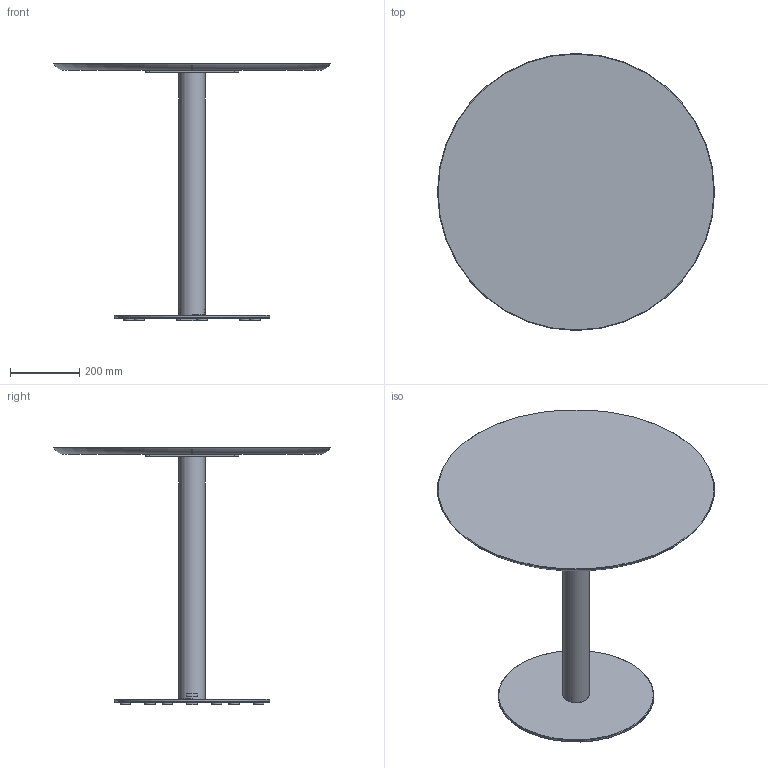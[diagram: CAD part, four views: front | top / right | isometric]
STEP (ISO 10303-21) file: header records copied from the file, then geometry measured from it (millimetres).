
FILE_DESCRIPTION( ('This file contains a STEP AP42 implementation' ,'as created by ZW3D STEP Interface translator.') ,'2;1' );
FILE_NAME( 'Henri - B_Rond - F1 - M3 - 700 x 700 x 750.stp' ,'24 912.151132', (''), ('ZWCAD Software Co.'), 'Version 1.0', 'ZW3D to STEP translator', '' );
FILE_SCHEMA(('AUTOMOTIVE_DESIGN { 1 0 10303 214 1 1 1 1 }'));
Length unit declared in the file: millimetre
Products named in the file (15): 0; PIED BISTROT PARAMETRIQUE_; COLONNE ACIER Ø76 V.02_; TUB-D076-02_; PLA-R76B-01_; SOCLE ACIER C Ø450 V.02_; SCL-D450-02_; PLA-R30A-01_; PLA-R30A-01; CROIX ACIER 370 V.02_; CRX-X370-02_; WUERTH 0276063020 Euro-screw 6.3x2 Verzinkt_; PLATEAU BISTROT PARAMETRIQUE_; insert_m6_13_; insert_m6_13
Assembly tree (24 placements, depth 3):
  0
  PIED BISTROT PARAMETRIQUE_
    COLONNE ACIER Ø76 V.02_
      TUB-D076-02_
      PLA-R76B-01_  x2
    SOCLE ACIER C Ø450 V.02_
      SCL-D450-02_
      PLA-R30A-01_
      PLA-R30A-01  x5
    CROIX ACIER 370 V.02_
      CRX-X370-02_
    WUERTH 0276063020 Euro-screw 6.3x2 Verzinkt_
    PLATEAU BISTROT PARAMETRIQUE_
      insert_m6_13_  x2
      insert_m6_13  x6
Bounding box: 800 x 800 x 744 mm (x, y, z)
Volume: 11897631.7 mm3; surface area: 1880311.7 mm2
Topology: 21 solids, 21 shells, 524 faces, 1273 edges, 802 vertices
Faces by surface type: plane 250, bspline 121, cylinder 103, cone 45, torus 5
Full cylindrical faces by diameter (mm): 4.88 x1, 6 x8, 6.3 x1, 8 x47, 12 x2, 14 x2, 30 x6, 72 x1, 76 x1, 450 x1
Entity records: 12786 total; most frequent: CARTESIAN_POINT 3716, ORIENTED_EDGE 1660, DIRECTION 1537, EDGE_CURVE 830, VERTEX_POINT 530, AXIS2_PLACEMENT_3D 515, VECTOR 507, LINE 507
